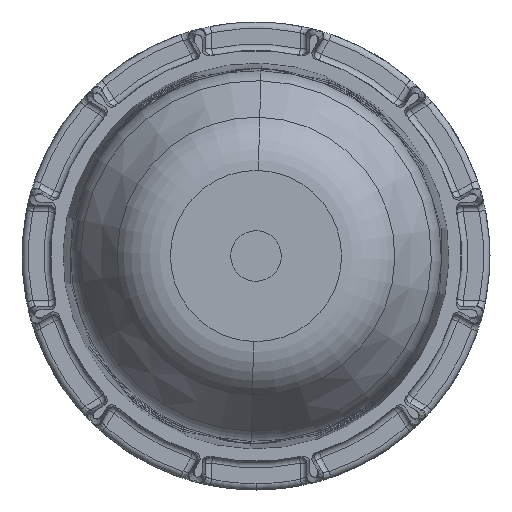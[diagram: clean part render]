
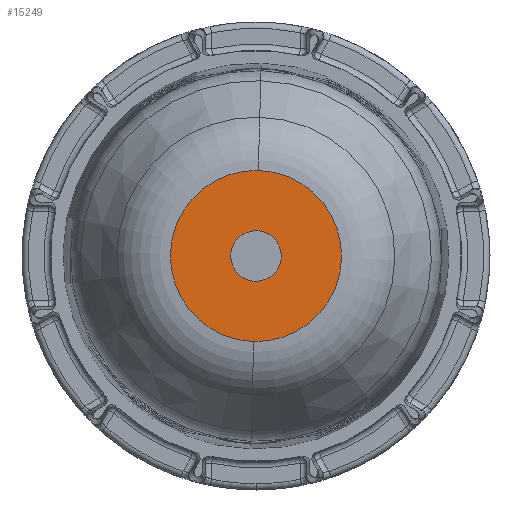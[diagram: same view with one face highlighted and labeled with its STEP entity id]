
A CAD part, front view. The second image highlights one B-rep face of the part: STEP entity #15249.
In plain terms, the highlighted planar face has unit normal (0, -1, 0).
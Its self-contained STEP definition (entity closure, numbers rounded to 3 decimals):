
#707 = CARTESIAN_POINT ( 'NONE',  ( -19.001, -16., 0. ) ) ;
#769 = CARTESIAN_POINT ( 'NONE',  ( 0., -16., -13.531 ) ) ;
#1146 = CIRCLE ( 'NONE', #8770, 13.531 ) ;
#1491 = PLANE ( 'NONE',  #6800 ) ;
#3924 = VERTEX_POINT ( 'NONE', #10935 ) ;
#4761 = DIRECTION ( 'NONE',  ( 0., 0., 1. ) ) ;
#5087 = CARTESIAN_POINT ( 'NONE',  ( 0., -16., 0. ) ) ;
#5103 = EDGE_CURVE ( 'NONE', #15459, #3924, #13616, .T. ) ;
#5125 = DIRECTION ( 'NONE',  ( 0., 1., 0. ) ) ;
#6800 = AXIS2_PLACEMENT_3D ( 'NONE', #707, #5125, #8720 ) ;
#7659 = DIRECTION ( 'NONE',  ( 0., 0., 1. ) ) ;
#7750 = EDGE_CURVE ( 'NONE', #3924, #15459, #1146, .T. ) ;
#8456 = ORIENTED_EDGE ( 'NONE', *, *, #7750, .T. ) ;
#8720 = DIRECTION ( 'NONE',  ( 0., 0., 1. ) ) ;
#8770 = AXIS2_PLACEMENT_3D ( 'NONE', #12797, #15853, #4761 ) ;
#8787 = EDGE_LOOP ( 'NONE', ( #8456, #13095 ) ) ;
#9030 = AXIS2_PLACEMENT_3D ( 'NONE', #5087, #14140, #7659 ) ;
#10935 = CARTESIAN_POINT ( 'NONE',  ( 0., -16., 13.531 ) ) ;
#11077 = FACE_OUTER_BOUND ( 'NONE', #8787, .T. ) ;
#12797 = CARTESIAN_POINT ( 'NONE',  ( 0., -16., 0. ) ) ;
#13095 = ORIENTED_EDGE ( 'NONE', *, *, #5103, .T. ) ;
#13616 = CIRCLE ( 'NONE', #9030, 13.531 ) ;
#14140 = DIRECTION ( 'NONE',  ( 0., -1., 0. ) ) ;
#15249 = ADVANCED_FACE ( 'NONE', ( #11077 ), #1491, .F. ) ;
#15459 = VERTEX_POINT ( 'NONE', #769 ) ;
#15853 = DIRECTION ( 'NONE',  ( 0., -1., 0. ) ) ;
